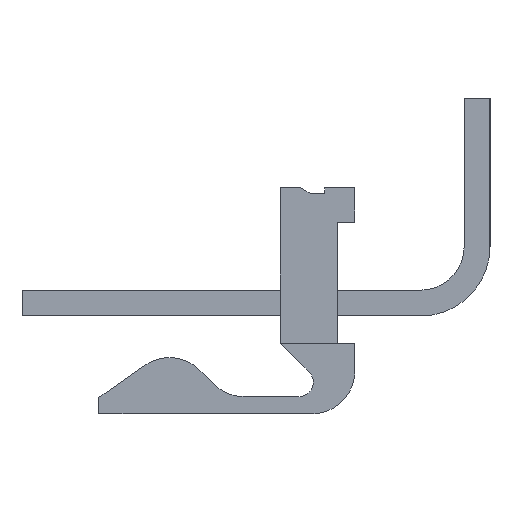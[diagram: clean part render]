
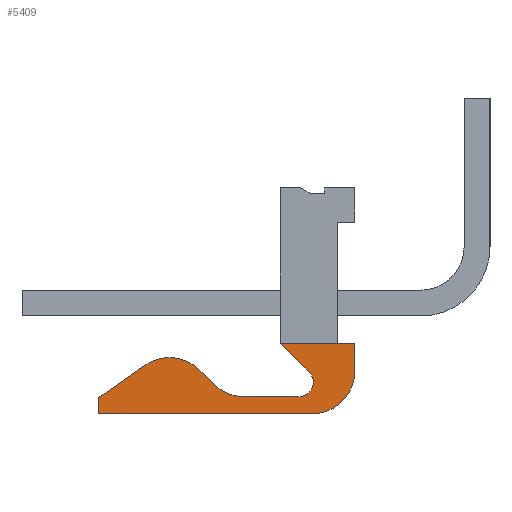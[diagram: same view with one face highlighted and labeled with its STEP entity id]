
A CAD part, left-side view. The second image highlights one B-rep face of the part: STEP entity #5409.
In plain terms, the highlighted planar face has unit normal (-1, 0, 0).
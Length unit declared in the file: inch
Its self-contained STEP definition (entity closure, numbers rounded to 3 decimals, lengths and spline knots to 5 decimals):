
#1409=DIRECTION('',(0.,1.,0.));
#1410=VECTOR('',#1409,0.1);
#1411=CARTESIAN_POINT('',(-0.546,-0.05,-0.1355));
#1412=LINE('',#1411,#1410);
#1805=DIRECTION('',(0.,-1.,0.));
#1806=VECTOR('',#1805,0.03);
#1807=CARTESIAN_POINT('',(-0.546,-0.05,-0.1355));
#1808=LINE('',#1807,#1806);
#1809=DIRECTION('',(0.,0.,-1.));
#1810=VECTOR('',#1809,0.048);
#1811=CARTESIAN_POINT('',(-0.546,-0.08,-0.1355));
#1812=LINE('',#1811,#1810);
#1813=CARTESIAN_POINT('',(-0.546,-0.005,-0.1835));
#1814=DIRECTION('',(1.,0.,0.));
#1815=DIRECTION('',(0.,-1.,0.));
#1816=AXIS2_PLACEMENT_3D('',#1813,#1814,#1815);
#1818=DIRECTION('',(0.,1.,0.));
#1819=VECTOR('',#1818,0.371);
#1820=CARTESIAN_POINT('',(-0.546,-0.005,-0.2585));
#1821=LINE('',#1820,#1819);
#1822=DIRECTION('',(0.,0.,1.));
#1823=VECTOR('',#1822,0.02843);
#1824=CARTESIAN_POINT('',(-0.546,0.366,-0.2585));
#1825=LINE('',#1824,#1823);
#1826=DIRECTION('',(0.,-0.819,0.574));
#1827=VECTOR('',#1826,0.09764);
#1828=CARTESIAN_POINT('',(-0.546,0.366,-0.23007));
#1829=LINE('',#1828,#1827);
#1830=CARTESIAN_POINT('',(-0.546,0.243,-0.2355));
#1831=DIRECTION('',(1.,0.,0.));
#1832=DIRECTION('',(0.,0.574,0.819));
#1833=AXIS2_PLACEMENT_3D('',#1830,#1831,#1832);
#1835=DIRECTION('',(0.,-0.707,-0.707));
#1836=VECTOR('',#1835,0.03403);
#1837=CARTESIAN_POINT('',(-0.546,0.18997,-0.18247));
#1838=LINE('',#1837,#1836);
#1839=CARTESIAN_POINT('',(-0.546,0.11287,-0.1535));
#1840=DIRECTION('',(-1.,0.,0.));
#1841=DIRECTION('',(0.,0.707,-0.707));
#1842=AXIS2_PLACEMENT_3D('',#1839,#1840,#1841);
#1844=DIRECTION('',(0.,-1.,0.));
#1845=VECTOR('',#1844,0.09551);
#1846=CARTESIAN_POINT('',(-0.546,0.11287,-0.2285));
#1847=LINE('',#1846,#1845);
#1848=CARTESIAN_POINT('',(-0.546,0.01736,-0.2035));
#1849=DIRECTION('',(-1.,0.,0.));
#1850=DIRECTION('',(0.,0.,-1.));
#1851=AXIS2_PLACEMENT_3D('',#1848,#1849,#1850);
#1853=DIRECTION('',(0.,0.707,0.707));
#1854=VECTOR('',#1853,0.07117);
#1855=CARTESIAN_POINT('',(-0.546,-0.00032,-0.18582));
#1856=LINE('',#1855,#1854);
#2191=CARTESIAN_POINT('',(-0.546,-0.08,-0.1355));
#2192=CARTESIAN_POINT('',(-0.546,-0.08,-0.1835));
#2193=VERTEX_POINT('',#2191);
#2194=VERTEX_POINT('',#2192);
#2195=CARTESIAN_POINT('',(-0.546,-0.005,-0.2585));
#2196=VERTEX_POINT('',#2195);
#2197=CARTESIAN_POINT('',(-0.546,0.366,-0.2585));
#2198=VERTEX_POINT('',#2197);
#2199=CARTESIAN_POINT('',(-0.546,0.366,-0.23007));
#2200=VERTEX_POINT('',#2199);
#2201=CARTESIAN_POINT('',(-0.546,0.28602,-0.17406));
#2202=VERTEX_POINT('',#2201);
#2203=CARTESIAN_POINT('',(-0.546,0.18997,-0.18247));
#2204=VERTEX_POINT('',#2203);
#2205=CARTESIAN_POINT('',(-0.546,0.1659,-0.20653));
#2206=VERTEX_POINT('',#2205);
#2207=CARTESIAN_POINT('',(-0.546,0.11287,-0.2285));
#2208=VERTEX_POINT('',#2207);
#2209=CARTESIAN_POINT('',(-0.546,0.01736,-0.2285));
#2210=VERTEX_POINT('',#2209);
#2211=CARTESIAN_POINT('',(-0.546,-0.00032,-0.18582));
#2212=VERTEX_POINT('',#2211);
#2217=CARTESIAN_POINT('',(-0.546,-0.05,-0.1355));
#2218=CARTESIAN_POINT('',(-0.546,0.05,-0.1355));
#2219=VERTEX_POINT('',#2217);
#2220=VERTEX_POINT('',#2218);
#5380=CARTESIAN_POINT('',(-0.546,0.,0.));
#5381=DIRECTION('',(1.,0.,0.));
#5382=DIRECTION('',(0.,0.,-1.));
#5383=AXIS2_PLACEMENT_3D('',#5380,#5381,#5382);
#5384=PLANE('',#5383);
#5385=ORIENTED_EDGE('',*,*,#4777,.F.);
#5386=ORIENTED_EDGE('',*,*,#4722,.T.);
#5387=ORIENTED_EDGE('',*,*,#4694,.T.);
#5389=ORIENTED_EDGE('',*,*,#5388,.T.);
#5391=ORIENTED_EDGE('',*,*,#5390,.T.);
#5393=ORIENTED_EDGE('',*,*,#5392,.T.);
#5395=ORIENTED_EDGE('',*,*,#5394,.T.);
#5397=ORIENTED_EDGE('',*,*,#5396,.T.);
#5399=ORIENTED_EDGE('',*,*,#5398,.T.);
#5401=ORIENTED_EDGE('',*,*,#5400,.T.);
#5403=ORIENTED_EDGE('',*,*,#5402,.T.);
#5405=ORIENTED_EDGE('',*,*,#5404,.T.);
#5406=ORIENTED_EDGE('',*,*,#4630,.T.);
#5407=EDGE_LOOP('',(#5385,#5386,#5387,#5389,#5391,#5393,#5395,#5397,#5399,#5401,
#5403,#5405,#5406));
#5408=FACE_OUTER_BOUND('',#5407,.F.);
#5409=ADVANCED_FACE('',(#5408),#5384,.F.);
#1817=CIRCLE('',#1816,0.075);
#1834=CIRCLE('',#1833,0.075);
#1843=CIRCLE('',#1842,0.075);
#1852=CIRCLE('',#1851,0.025);
#4630=EDGE_CURVE('',#2212,#2220,#1856,.T.);
#4694=EDGE_CURVE('',#2193,#2194,#1812,.T.);
#4722=EDGE_CURVE('',#2219,#2193,#1808,.T.);
#4777=EDGE_CURVE('',#2219,#2220,#1412,.T.);
#5388=EDGE_CURVE('',#2194,#2196,#1817,.T.);
#5390=EDGE_CURVE('',#2196,#2198,#1821,.T.);
#5392=EDGE_CURVE('',#2198,#2200,#1825,.T.);
#5394=EDGE_CURVE('',#2200,#2202,#1829,.T.);
#5396=EDGE_CURVE('',#2202,#2204,#1834,.T.);
#5398=EDGE_CURVE('',#2204,#2206,#1838,.T.);
#5400=EDGE_CURVE('',#2206,#2208,#1843,.T.);
#5402=EDGE_CURVE('',#2208,#2210,#1847,.T.);
#5404=EDGE_CURVE('',#2210,#2212,#1852,.T.);
